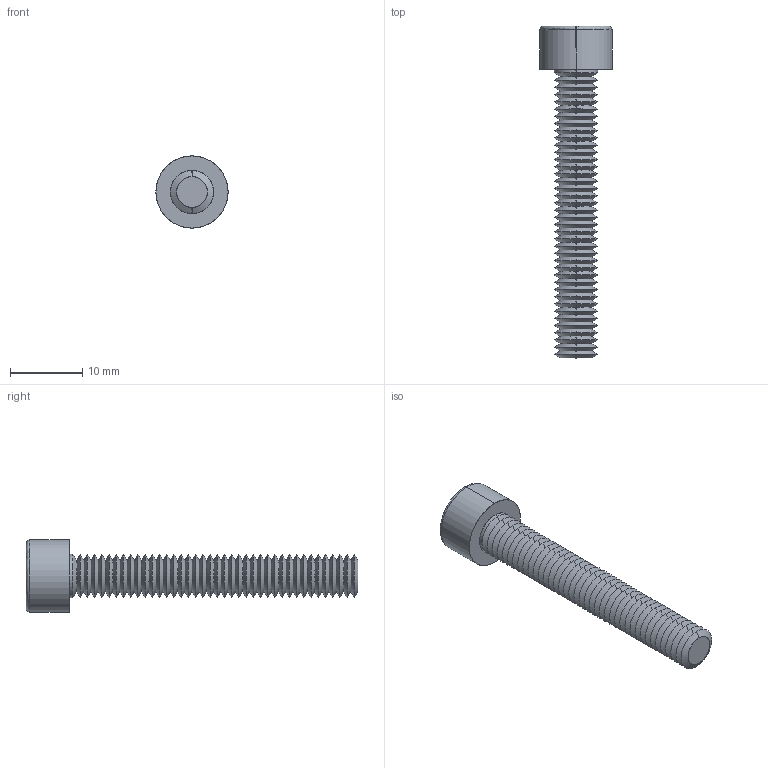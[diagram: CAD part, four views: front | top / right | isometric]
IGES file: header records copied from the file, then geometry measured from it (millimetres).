
Start section: SolidWorks IGES file using analytic representation for surfaces
Global section: file name: C:\Users\ianosborn\Desktop\N0007.91N_v2\N0007.91N_v2_20250519_IGES\91N.060.0400.igs; native system: SolidWorks 2019; preprocessor: SolidWorks 2019; author: IanOsborn; date: 250520.095322; units: millimetre
Bounding box: 10 x 46 x 10 mm (x, y, z)
Surface area: 1697 mm2 (no closed solid volume)
Topology: 0 solids, 0 shells, 188 faces, 949 edges, 947 vertices
Faces by surface type: revolution 171, bspline 17
